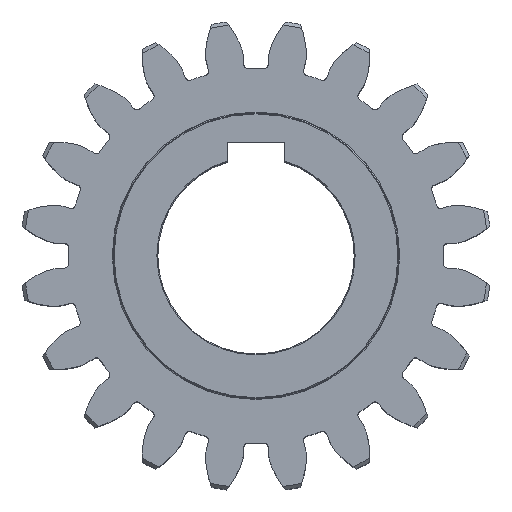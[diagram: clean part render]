
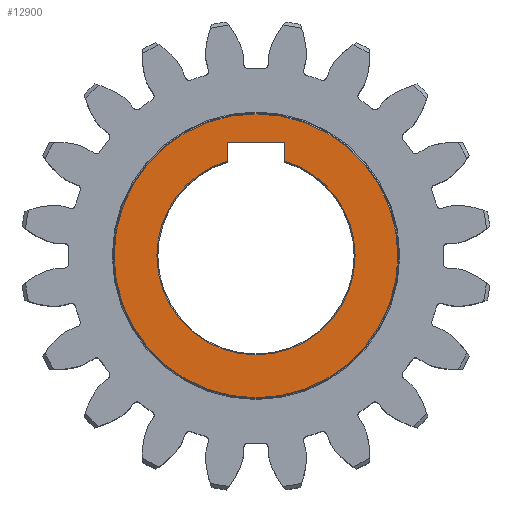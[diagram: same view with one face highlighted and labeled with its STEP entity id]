
A CAD part, top view. The second image highlights one B-rep face of the part: STEP entity #12900.
In plain terms, the highlighted planar face has unit normal (0, 0, 1).
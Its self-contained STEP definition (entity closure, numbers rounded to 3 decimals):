
#53 = CIRCLE ( 'NONE', #10343, 39.75 ) ;
#83 = CARTESIAN_POINT ( 'NONE',  ( 8., 31.8, 35. ) ) ;
#538 = DIRECTION ( 'NONE',  ( 1., 0., 0. ) ) ;
#598 = VERTEX_POINT ( 'NONE', #12316 ) ;
#853 = DIRECTION ( 'NONE',  ( 1., 0., 0. ) ) ;
#976 = CARTESIAN_POINT ( 'NONE',  ( 0., 0., 35. ) ) ;
#982 = ORIENTED_EDGE ( 'NONE', *, *, #10911, .T. ) ;
#1414 = VECTOR ( 'NONE', #12488, 1000. ) ;
#1483 = EDGE_CURVE ( 'NONE', #8520, #598, #10806, .T. ) ;
#1510 = DIRECTION ( 'NONE',  ( 1., 0., 0. ) ) ;
#1644 = DIRECTION ( 'NONE',  ( 0., 0., 1. ) ) ;
#2816 = CARTESIAN_POINT ( 'NONE',  ( 8., 26.572, 35. ) ) ;
#2840 = CIRCLE ( 'NONE', #13374, 27.75 ) ;
#3007 = CARTESIAN_POINT ( 'NONE',  ( 39.75, 0., 35. ) ) ;
#3692 = DIRECTION ( 'NONE',  ( 0., 0., 1. ) ) ;
#3752 = CARTESIAN_POINT ( 'NONE',  ( 0., 0., 35. ) ) ;
#3822 = EDGE_CURVE ( 'NONE', #11355, #6823, #5746, .T. ) ;
#3873 = DIRECTION ( 'NONE',  ( 1., 0., 0. ) ) ;
#3966 = DIRECTION ( 'NONE',  ( 1., 0., 0. ) ) ;
#4339 = CARTESIAN_POINT ( 'NONE',  ( -27.75, 0., 35. ) ) ;
#4477 = EDGE_CURVE ( 'NONE', #598, #11180, #2840, .T. ) ;
#4636 = DIRECTION ( 'NONE',  ( 0., -1., 0. ) ) ;
#4641 = VERTEX_POINT ( 'NONE', #8693 ) ;
#4713 = DIRECTION ( 'NONE',  ( 0., 0., -1. ) ) ;
#5263 = ORIENTED_EDGE ( 'NONE', *, *, #3822, .T. ) ;
#5269 = ORIENTED_EDGE ( 'NONE', *, *, #1483, .T. ) ;
#5417 = AXIS2_PLACEMENT_3D ( 'NONE', #976, #13789, #9446 ) ;
#5426 = VECTOR ( 'NONE', #853, 1000. ) ;
#5746 = CIRCLE ( 'NONE', #6643, 39.75 ) ;
#5842 = CARTESIAN_POINT ( 'NONE',  ( 0., 0., 35. ) ) ;
#6077 = AXIS2_PLACEMENT_3D ( 'NONE', #11394, #13559, #3966 ) ;
#6643 = AXIS2_PLACEMENT_3D ( 'NONE', #10250, #13462, #3873 ) ;
#6746 = CIRCLE ( 'NONE', #6077, 27.75 ) ;
#6823 = VERTEX_POINT ( 'NONE', #13853 ) ;
#6915 = CARTESIAN_POINT ( 'NONE',  ( -8., 31.8, 35. ) ) ;
#7386 = EDGE_CURVE ( 'NONE', #7553, #4641, #9601, .T. ) ;
#7553 = VERTEX_POINT ( 'NONE', #6915 ) ;
#7648 = ORIENTED_EDGE ( 'NONE', *, *, #10568, .T. ) ;
#7877 = VERTEX_POINT ( 'NONE', #9789 ) ;
#7932 = CARTESIAN_POINT ( 'NONE',  ( 8., 23.2, 35. ) ) ;
#8211 = CARTESIAN_POINT ( 'NONE',  ( -8., 23.2, 35. ) ) ;
#8269 = EDGE_LOOP ( 'NONE', ( #7648, #5263 ) ) ;
#8330 = EDGE_CURVE ( 'NONE', #7877, #7553, #13683, .T. ) ;
#8520 = VERTEX_POINT ( 'NONE', #2816 ) ;
#8693 = CARTESIAN_POINT ( 'NONE',  ( 8., 31.8, 35. ) ) ;
#8867 = ORIENTED_EDGE ( 'NONE', *, *, #4477, .T. ) ;
#9146 = ORIENTED_EDGE ( 'NONE', *, *, #10772, .T. ) ;
#9216 = PLANE ( 'NONE',  #10899 ) ;
#9446 = DIRECTION ( 'NONE',  ( 1., 0., 0. ) ) ;
#9601 = LINE ( 'NONE', #83, #5426 ) ;
#9669 = VECTOR ( 'NONE', #4636, 1000. ) ;
#9789 = CARTESIAN_POINT ( 'NONE',  ( -8., 26.572, 35. ) ) ;
#10250 = CARTESIAN_POINT ( 'NONE',  ( 0., 0., 35. ) ) ;
#10338 = FACE_BOUND ( 'NONE', #12775, .T. ) ;
#10343 = AXIS2_PLACEMENT_3D ( 'NONE', #5842, #3692, #1510 ) ;
#10568 = EDGE_CURVE ( 'NONE', #6823, #11355, #53, .T. ) ;
#10772 = EDGE_CURVE ( 'NONE', #11180, #7877, #6746, .T. ) ;
#10806 = CIRCLE ( 'NONE', #5417, 27.75 ) ;
#10899 = AXIS2_PLACEMENT_3D ( 'NONE', #11532, #1644, #11321 ) ;
#10911 = EDGE_CURVE ( 'NONE', #4641, #8520, #11031, .T. ) ;
#11031 = LINE ( 'NONE', #7932, #9669 ) ;
#11180 = VERTEX_POINT ( 'NONE', #4339 ) ;
#11321 = DIRECTION ( 'NONE',  ( 1., 0., 0. ) ) ;
#11355 = VERTEX_POINT ( 'NONE', #3007 ) ;
#11394 = CARTESIAN_POINT ( 'NONE',  ( 0., 0., 35. ) ) ;
#11532 = CARTESIAN_POINT ( 'NONE',  ( 0., 0., 35. ) ) ;
#11563 = ORIENTED_EDGE ( 'NONE', *, *, #8330, .T. ) ;
#12293 = FACE_OUTER_BOUND ( 'NONE', #8269, .T. ) ;
#12316 = CARTESIAN_POINT ( 'NONE',  ( 27.75, 0., 35. ) ) ;
#12488 = DIRECTION ( 'NONE',  ( 0., 1., 0. ) ) ;
#12691 = ORIENTED_EDGE ( 'NONE', *, *, #7386, .T. ) ;
#12775 = EDGE_LOOP ( 'NONE', ( #982, #5269, #8867, #9146, #11563, #12691 ) ) ;
#12900 = ADVANCED_FACE ( 'NONE', ( #12293, #10338 ), #9216, .T. ) ;
#13374 = AXIS2_PLACEMENT_3D ( 'NONE', #3752, #4713, #538 ) ;
#13462 = DIRECTION ( 'NONE',  ( 0., 0., 1. ) ) ;
#13559 = DIRECTION ( 'NONE',  ( 0., 0., -1. ) ) ;
#13683 = LINE ( 'NONE', #8211, #1414 ) ;
#13789 = DIRECTION ( 'NONE',  ( 0., 0., -1. ) ) ;
#13853 = CARTESIAN_POINT ( 'NONE',  ( -39.75, 0., 35. ) ) ;
